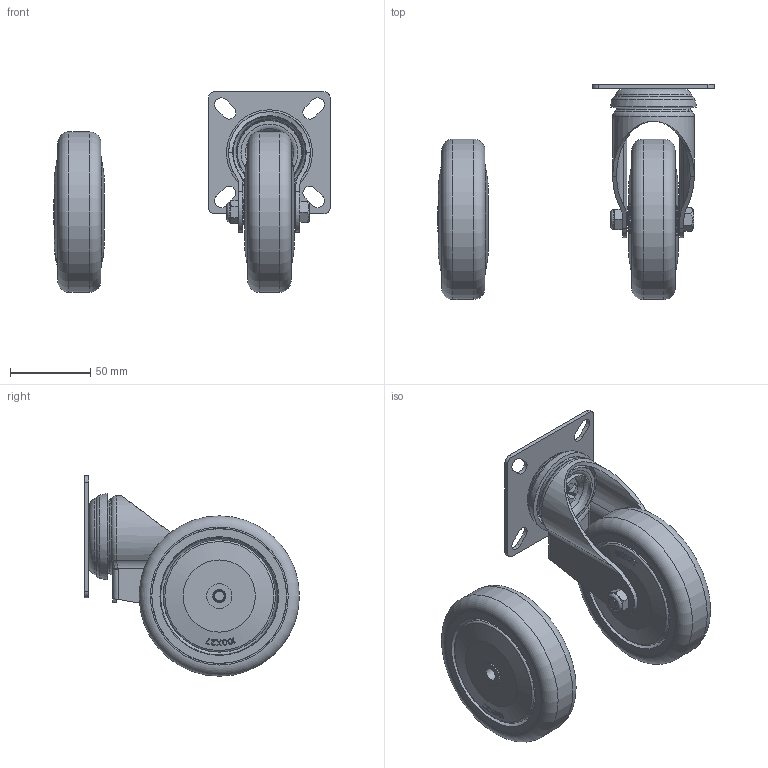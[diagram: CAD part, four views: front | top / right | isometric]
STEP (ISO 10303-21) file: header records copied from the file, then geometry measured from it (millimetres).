
FILE_DESCRIPTION(('STEP AP203'),'1');
FILE_NAME('E:/Pomoc/Strongo/344a39J100rZPE.stp',' ',(' '),(' '),'XStep 1.0',' ',' ');
FILE_SCHEMA(('CONFIG_CONTROL_DESIGN'));
Length unit declared in the file: metre
Products named in the file (3): Next assembly relationship; Assembly75; Assembly83
Bounding box: 172.57 x 134 x 125 mm (x, y, z)
Volume: 384052.3 mm3; surface area: 260787.9 mm2
Topology: 132 solids, 136 shells, 3465 faces, 9625 edges, 6342 vertices
Faces by surface type: plane 2567, cylinder 337, torus 205, cone 199, sphere 106, bspline 45, revolution 4, extrusion 2
Full cylindrical faces by diameter (mm): 2.076 x4, 4.014 x2, 7 x1, 8 x19, 8.2 x4, 12 x8, 12.2 x2, 12.3 x6, 12.5 x1, 15.6 x4, 16.5 x4, 18 x4, 22 x2, 26 x4, 29 x4, 30 x2, 31 x2, 31.8 x2, 32 x4, 40 x2, 66.6 x4, 70 x4, 84 x2, 100 x2
Entity records: 56661 total; most frequent: CARTESIAN_POINT 17882, ORIENTED_EDGE 8204, DIRECTION 7347, EDGE_CURVE 4106, VECTOR 3093, LINE 3092, VERTEX_POINT 2752, AXIS2_PLACEMENT_3D 2126
